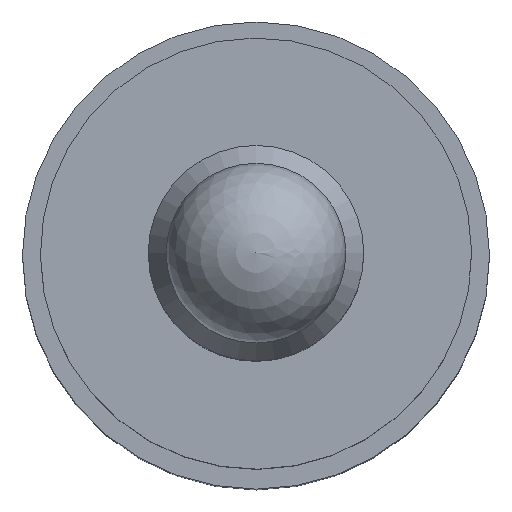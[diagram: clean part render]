
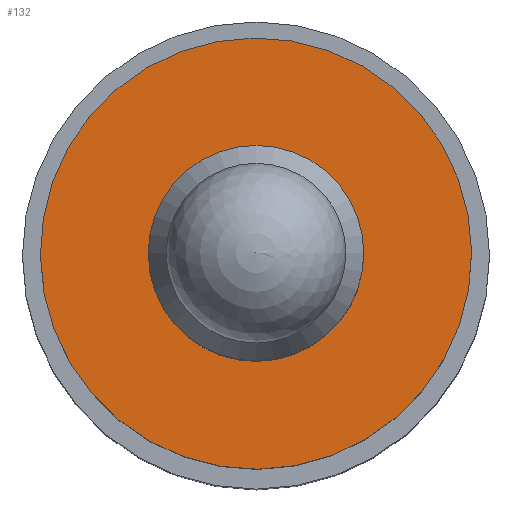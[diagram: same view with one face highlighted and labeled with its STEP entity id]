
A CAD part, top view. The second image highlights one B-rep face of the part: STEP entity #132.
In plain terms, the highlighted planar face has unit normal (0, 0, 1).
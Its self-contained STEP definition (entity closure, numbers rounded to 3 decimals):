
#132 = ADVANCED_FACE( '', ( #161, #162 ), #163, .T. );
#161 = FACE_BOUND( '', #195, .T. );
#162 = FACE_OUTER_BOUND( '', #196, .T. );
#163 = PLANE( '', #197 );
#195 = EDGE_LOOP( '', ( #247 ) );
#196 = EDGE_LOOP( '', ( #248 ) );
#197 = AXIS2_PLACEMENT_3D( '', #249, #250, #251 );
#247 = ORIENTED_EDGE( '', *, *, #270, .F. );
#248 = ORIENTED_EDGE( '', *, *, #271, .F. );
#249 = CARTESIAN_POINT( '', ( 0., 0., 44.5 ) );
#250 = DIRECTION( '', ( 0., 0., 1. ) );
#251 = DIRECTION( '', ( 1., 0., 0. ) );
#270 = EDGE_CURVE( '', #289, #289, #290, .T. );
#271 = EDGE_CURVE( '', #291, #291, #292, .T. );
#289 = VERTEX_POINT( '', #311 );
#290 = CIRCLE( '', #312, 3. );
#291 = VERTEX_POINT( '', #313 );
#292 = CIRCLE( '', #314, 6. );
#311 = CARTESIAN_POINT( '', ( -3., -0.027, 44.5 ) );
#312 = AXIS2_PLACEMENT_3D( '', #341, #342, #343 );
#313 = CARTESIAN_POINT( '', ( 6., 0.054, 44.5 ) );
#314 = AXIS2_PLACEMENT_3D( '', #344, #345, #346 );
#341 = CARTESIAN_POINT( '', ( 0., 0., 44.5 ) );
#342 = DIRECTION( '', ( 0., 0., 1. ) );
#343 = DIRECTION( '', ( -1., -0.009, 0. ) );
#344 = CARTESIAN_POINT( '', ( 0., 0., 44.5 ) );
#345 = DIRECTION( '', ( 0., 0., -1. ) );
#346 = DIRECTION( '', ( 1., 0.009, 0. ) );
